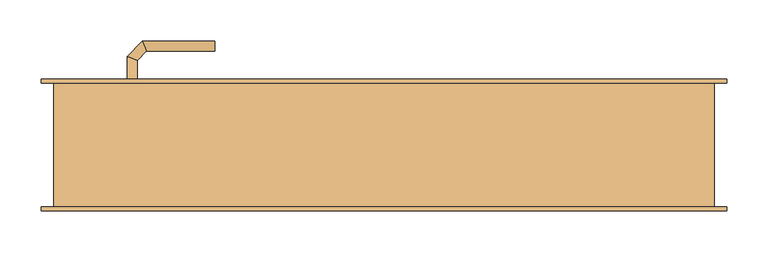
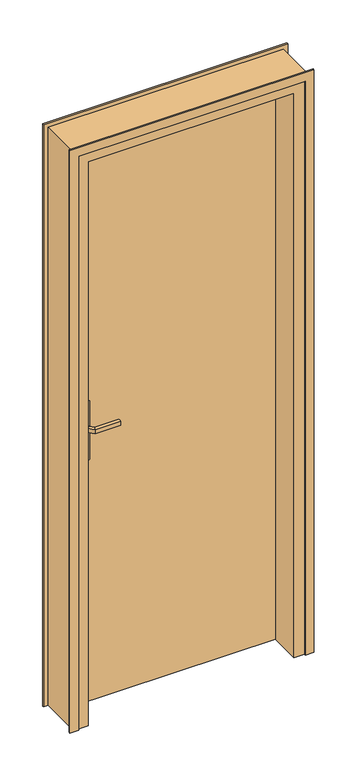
"""IFC4 building model written with IfcOpenShell, lengths in millimetres: door geometry, @_Int. Simple : @_PP (0.73m x 2.04m)."""

from ifc_helpers import new_model, si_unit, point, frame, frame_2d, origin, origin_with_axes, place, context, project, spatial, polyline, circle_curve, ellipse_curve, trimmed, segment, composite_curve, outline, extrude, faceted_brep, source, transform, mapped, element, save
from ifc_brep_helpers import plane_surface, cylinder_surface, advanced_brep


def door_bff29abf(model_context):
    return source(origin(), model_context, "Body", "SolidModel", [
        extrude(outline(composite_curve([segment(trimmed(circle_curve(frame_2d((904.6410162, -340.0)), 40.0), [point((870.0, -360.0))], [point((870.0, -320.0))], False, "CARTESIAN"), True, "CONTINUOUS"), segment(polyline([(870.0, -320.0), (1080.0, -320.0)]), True, "CONTINUOUS"), segment(trimmed(circle_curve(frame_2d((1045.3589838, -340.0)), 40.0), [point((1080.0, -320.0))], [point((1080.0, -360.0))], False, "CARTESIAN"), True, "CONTINUOUS"), segment(polyline([(1080.0, -360.0), (870.0, -360.0)]), True, "CONTINUOUS")], self_intersect=False)), frame((0.0, 75.0, 0.0), z_axis=(0.0, 1.0, 0.0), x_axis=(0.0, 0.0, 1.0)), (0.0, 0.0, 1.0), 5.0),
        extrude(outline(composite_curve([segment(trimmed(circle_curve(frame_2d((1045.3589838, -340.0)), 40.0), [point((1080.0, -320.0))], [point((1080.0, -360.0))], False, "CARTESIAN"), True, "CONTINUOUS"), segment(polyline([(1080.0, -360.0), (870.0, -360.0)]), True, "CONTINUOUS"), segment(trimmed(circle_curve(frame_2d((904.6410162, -340.0)), 40.0), [point((870.0, -360.0))], [point((870.0, -320.0))], False, "CARTESIAN"), True, "CONTINUOUS"), segment(polyline([(870.0, -320.0), (1080.0, -320.0)]), True, "CONTINUOUS")], self_intersect=False)), frame((0.0, 30.0, 0.0), z_axis=(0.0, 1.0, 0.0), x_axis=(0.0, 0.0, 1.0)), (0.0, 0.0, 1.0), 5.0),
        advanced_brep(
        [(-346.0, 80.0, 1007.0), (-346.0, 80.0, 993.0), (-334.0, 80.0, 993.0), (-334.0, 80.0, 1007.0), (-334.0, 102.680388, 1007.0), (-346.0, 107.6509507, 1007.0), (-334.0, 102.680388, 993.0), (-346.0, 107.6509507, 993.0), (-322.6522273, 114.0281607, 1007.0), (-327.62279, 126.0281607, 1007.0), (-322.6522273, 114.0281607, 993.0), (-327.62279, 126.0281607, 993.0), (-239.9813594, 126.0281607, 1007.0), (-239.9813594, 114.0281607, 1007.0), (-239.9813594, 114.0281607, 993.0), (-239.9813594, 126.0281607, 993.0)],
        [
            (0, 1),
            (1, 2, circle_curve(frame((-340.0, 80.0, 1013.0457722), z_axis=(0.0, -1.0, 0.0), x_axis=(1.0, 0.0, 0.0)), 20.9244589)),
            (2, 3),
            (3, 0, circle_curve(frame((-340.0, 80.0, 986.9542278), z_axis=(0.0, -1.0, 0.0), x_axis=(1.0, 0.0, 0.0)), 20.9244589)),
            (3, 4),
            (4, 5, ellipse_curve(frame((-340.0, 105.1656693, 986.9542278), z_axis=(-0.3826834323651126, -0.9238795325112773, 0.0), x_axis=(0.9238795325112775, -0.38268343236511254, 0.0)), 22.6484711, 20.9244589)),
            (5, 0),
            (2, 6),
            (6, 4),
            (1, 7),
            (7, 6, ellipse_curve(frame((-340.0, 105.1656693, 1013.0457722), z_axis=(-0.3826834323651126, -0.9238795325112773, 0.0), x_axis=(0.9238795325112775, -0.38268343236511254, 0.0)), 22.6484711, 20.9244589)),
            (5, 7),
            (4, 8),
            (8, 9, ellipse_curve(frame((-325.1375086, 120.0281607, 986.9542278), z_axis=(-0.9238795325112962, -0.38268343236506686, 0.0), x_axis=(0.3826834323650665, -0.9238795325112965, 0.0)), 22.6484711, 20.9244589)),
            (9, 5),
            (6, 10),
            (10, 8),
            (7, 11),
            (11, 10, ellipse_curve(frame((-325.1375086, 120.0281607, 1013.0457722), z_axis=(-0.9238795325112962, -0.38268343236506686, 0.0), x_axis=(0.3826834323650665, -0.9238795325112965, 0.0)), 22.6484711, 20.9244589)),
            (9, 11),
            (12, 13, circle_curve(frame((-239.9813594, 120.0281607, 986.9542278), z_axis=(1.0, 0.0, 0.0), x_axis=(0.0, -1.0, 0.0)), 20.9244589)),
            (13, 14),
            (14, 15, circle_curve(frame((-239.9813594, 120.0281607, 1013.0457722), z_axis=(1.0, 0.0, 0.0), x_axis=(0.0, -1.0, 0.0)), 20.9244589)),
            (15, 12),
            (8, 13),
            (12, 9),
            (10, 14),
            (11, 15),
        ],
        [
            plane_surface(frame((-349.2195445, 80.0, 1000.0), z_axis=(0.0, -1.0, 0.0), x_axis=(0.0, 0.0, -1.0))),
            cylinder_surface(frame((-340.0, 80.0, 986.9542278), z_axis=(0.0, -1.0, 0.0), x_axis=(1.0, 0.0, 0.0)), 20.9244589),
            plane_surface(frame((-334.0, 80.0, 1007.0), z_axis=(1.0, 0.0, 0.0), x_axis=(0.0, 1.0, 0.0))),
            cylinder_surface(frame((-340.0, 80.0, 1013.0457722), z_axis=(0.0, -1.0, 0.0), x_axis=(1.0, 0.0, 0.0)), 20.9244589),
            plane_surface(frame((-346.0, 80.0, 993.0), z_axis=(-1.0, 0.0, 0.0), x_axis=(0.0, 1.0, 0.0))),
            cylinder_surface(frame((-340.0, 105.1656693, 986.9542278), z_axis=(-0.7071067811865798, -0.7071067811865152, 0.0), x_axis=(0.7071067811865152, -0.7071067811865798, 0.0)), 20.9244589),
            plane_surface(frame((-334.0, 102.680388, 1007.0), z_axis=(0.7071067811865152, -0.7071067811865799, 0.0), x_axis=(0.7071067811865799, 0.7071067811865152, 0.0))),
            cylinder_surface(frame((-340.0, 105.1656693, 1013.0457722), z_axis=(-0.7071067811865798, -0.7071067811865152, 0.0), x_axis=(0.7071067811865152, -0.7071067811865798, 0.0)), 20.9244589),
            plane_surface(frame((-346.0, 107.6509507, 993.0), z_axis=(-0.7071067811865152, 0.7071067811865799, 0.0), x_axis=(0.7071067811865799, 0.7071067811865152, 0.0))),
            plane_surface(frame((-239.9813594, 120.0281607, 990.7804555), z_axis=(1.0, 0.0, 0.0), x_axis=(0.0, -1.0, 0.0))),
            cylinder_surface(frame((-325.1375086, 120.0281607, 986.9542278), z_axis=(-1.0, 0.0, 0.0), x_axis=(0.0, -1.0, 0.0)), 20.9244589),
            plane_surface(frame((-322.6522273, 114.0281607, 1007.0), z_axis=(0.0, -1.0, 0.0), x_axis=(1.0, 0.0, 0.0))),
            cylinder_surface(frame((-325.1375086, 120.0281607, 1013.0457722), z_axis=(-1.0, 0.0, 0.0), x_axis=(0.0, -1.0, 0.0)), 20.9244589),
            plane_surface(frame((-327.62279, 126.0281607, 993.0), z_axis=(0.0, 1.0, 0.0), x_axis=(1.0, 0.0, 0.0))),
        ],
        [
            (0, [[1, 2, 3, 4]]),
            (1, [[5, 6, 7, -4]]),
            (2, [[8, 9, -5, -3]]),
            (3, [[10, 11, -8, -2]]),
            (4, [[-7, 12, -10, -1]]),
            (5, [[13, 14, 15, -6]]),
            (6, [[16, 17, -13, -9]]),
            (7, [[18, 19, -16, -11]]),
            (8, [[-15, 20, -18, -12]]),
            (9, [[21, 22, 23, 24]]),
            (10, [[25, -21, 26, -14]]),
            (11, [[27, -22, -25, -17]]),
            (12, [[28, -23, -27, -19]]),
            (13, [[-26, -24, -28, -20]]),
        ],
    ),
        advanced_brep(
        [(-334.0, 30.0, 993.0), (-346.0, 30.0, 993.0), (-346.0, 30.0, 1007.0), (-334.0, 30.0, 1007.0), (-334.0, 7.5147955, 1007.0), (-334.0, 7.5147955, 993.0), (-346.0, 2.5442327, 1007.0), (-346.0, 2.5442327, 993.0), (-322.5147186, -3.9704859, 1007.0), (-322.5147186, -3.9704859, 993.0), (-327.4852814, -15.9704859, 1007.0), (-327.4852814, -15.9704859, 993.0), (-239.9542163, -3.9704859, 993.0), (-239.9542163, -3.9704859, 1007.0), (-239.9542163, -15.9704859, 1007.0), (-239.9542163, -15.9704859, 993.0)],
        [
            (0, 1, circle_curve(frame((-340.0, 30.0, 1013.0457722), z_axis=(0.0, 1.0, 0.0), x_axis=(-1.0, 0.0, 0.0)), 20.9244589)),
            (1, 2),
            (2, 3, circle_curve(frame((-340.0, 30.0, 986.9542278), z_axis=(0.0, 1.0, 0.0), x_axis=(-1.0, 0.0, 0.0)), 20.9244589)),
            (3, 0),
            (3, 4),
            (4, 5),
            (5, 0),
            (2, 6),
            (6, 4, ellipse_curve(frame((-340.0, 5.0295141, 986.9542278), z_axis=(-0.3826834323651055, 0.9238795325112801, 0.0), x_axis=(0.9238795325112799, 0.3826834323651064, 0.0)), 22.6484711, 20.9244589)),
            (1, 7),
            (7, 6),
            (5, 7, ellipse_curve(frame((-340.0, 5.0295141, 1013.0457722), z_axis=(-0.3826834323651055, 0.9238795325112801, 0.0), x_axis=(0.9238795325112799, 0.3826834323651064, 0.0)), 22.6484711, 20.9244589)),
            (4, 8),
            (8, 9),
            (9, 5),
            (6, 10),
            (10, 8, ellipse_curve(frame((-325.0, -9.9704859, 986.9542278), z_axis=(-0.9238795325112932, 0.382683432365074, 0.0), x_axis=(0.3826834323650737, 0.9238795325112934, 0.0)), 22.6484711, 20.9244589)),
            (7, 11),
            (11, 10),
            (9, 11, ellipse_curve(frame((-325.0, -9.9704859, 1013.0457722), z_axis=(-0.9238795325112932, 0.382683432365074, 0.0), x_axis=(0.3826834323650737, 0.9238795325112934, 0.0)), 22.6484711, 20.9244589)),
            (12, 13),
            (13, 14, circle_curve(frame((-239.9542163, -9.9704859, 986.9542278), z_axis=(1.0, 0.0, 0.0), x_axis=(0.0, -1.0, 0.0)), 20.9244589)),
            (14, 15),
            (15, 12, circle_curve(frame((-239.9542163, -9.9704859, 1013.0457722), z_axis=(1.0, 0.0, 0.0), x_axis=(0.0, -1.0, 0.0)), 20.9244589)),
            (8, 13),
            (12, 9),
            (10, 14),
            (11, 15),
        ],
        [
            plane_surface(frame((-349.2195445, 30.0, 1000.0), z_axis=(0.0, 1.0, 0.0), x_axis=(0.0, 0.0, 1.0))),
            plane_surface(frame((-334.0, 30.0, 993.0), z_axis=(1.0, 0.0, 0.0), x_axis=(0.0, -1.0, 0.0))),
            cylinder_surface(frame((-340.0, 30.0, 986.9542278), z_axis=(0.0, 1.0, 0.0), x_axis=(-1.0, 0.0, 0.0)), 20.9244589),
            plane_surface(frame((-346.0, 30.0, 1007.0), z_axis=(-1.0, 0.0, 0.0), x_axis=(0.0, -1.0, 0.0))),
            cylinder_surface(frame((-340.0, 30.0, 1013.0457722), z_axis=(0.0, 1.0, 0.0), x_axis=(-1.0, 0.0, 0.0)), 20.9244589),
            plane_surface(frame((-334.0, 7.5147955, 993.0), z_axis=(0.7071067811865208, 0.7071067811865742, 0.0), x_axis=(0.7071067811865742, -0.7071067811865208, 0.0))),
            cylinder_surface(frame((-340.0, 5.0295141, 986.9542278), z_axis=(-0.7071067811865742, 0.7071067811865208, 0.0), x_axis=(-0.7071067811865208, -0.7071067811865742, 0.0)), 20.9244589),
            plane_surface(frame((-346.0, 2.5442327, 1007.0), z_axis=(-0.7071067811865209, -0.7071067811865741, 0.0), x_axis=(0.7071067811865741, -0.7071067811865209, 0.0))),
            cylinder_surface(frame((-340.0, 5.0295141, 1013.0457722), z_axis=(-0.7071067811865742, 0.7071067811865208, 0.0), x_axis=(-0.7071067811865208, -0.7071067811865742, 0.0)), 20.9244589),
            plane_surface(frame((-239.9542163, -9.9704859, 990.7804555), z_axis=(1.0, 0.0, 0.0), x_axis=(0.0, -1.0, 0.0))),
            plane_surface(frame((-322.5147186, -3.9704859, 993.0), z_axis=(0.0, 1.0, 0.0), x_axis=(1.0, 0.0, 0.0))),
            cylinder_surface(frame((-325.0, -9.9704859, 986.9542278), z_axis=(-1.0, 0.0, 0.0), x_axis=(0.0, -1.0, 0.0)), 20.9244589),
            plane_surface(frame((-327.4852814, -15.9704859, 1007.0), z_axis=(0.0, -1.0, 0.0), x_axis=(1.0, 0.0, 0.0))),
            cylinder_surface(frame((-325.0, -9.9704859, 1013.0457722), z_axis=(-1.0, 0.0, 0.0), x_axis=(0.0, -1.0, 0.0)), 20.9244589),
        ],
        [
            (0, [[1, 2, 3, 4]]),
            (1, [[5, 6, 7, -4]]),
            (2, [[8, 9, -5, -3]]),
            (3, [[10, 11, -8, -2]]),
            (4, [[-7, 12, -10, -1]]),
            (5, [[13, 14, 15, -6]]),
            (6, [[16, 17, -13, -9]]),
            (7, [[18, 19, -16, -11]]),
            (8, [[-15, 20, -18, -12]]),
            (9, [[21, 22, 23, 24]]),
            (10, [[25, -21, 26, -14]]),
            (11, [[27, -22, -25, -17]]),
            (12, [[28, -23, -27, -19]]),
            (13, [[-26, -24, -28, -20]]),
        ],
    ),
        extrude(outline(polyline([(-400.0, 35.0), (-400.0, 75.0), (330.0, 75.0), (330.0, 35.0), (-400.0, 35.0)])), origin_with_axes(), (0.0, 0.0, 1.0), 2040.0),
        faceted_brep([(-435.0, 75.0, 0.0), (-400.0, 75.0, 0.0), (-400.0, 35.0, 0.0), (-385.0, 35.0, 0.0), (-385.0, -75.0, 0.0), (-435.0, -75.0, 0.0), (-435.0, -75.0, 2075.0), (-435.0, 75.0, 2075.0), (-385.0, -75.0, 2025.0), (315.0, -75.0, 2025.0), (315.0, -75.0, 0.0), (365.0, -75.0, 0.0), (365.0, -75.0, 2075.0), (-385.0, 35.0, 2025.0), (-400.0, 35.0, 2040.0), (330.0, 35.0, 2040.0), (330.0, 35.0, 0.0), (315.0, 35.0, 0.0), (315.0, 35.0, 2025.0), (-400.0, 75.0, 2040.0), (365.0, 75.0, 2075.0), (365.0, 75.0, 0.0), (330.0, 75.0, 0.0), (330.0, 75.0, 2040.0)], [[[0, 1, 2, 3, 4, 5]], [[5, 6, 7, 0]], [[4, 8, 9, 10, 11, 12, 6, 5]], [[3, 13, 8, 4]], [[2, 14, 15, 16, 17, 18, 13, 3]], [[1, 19, 14, 2]], [[0, 7, 20, 21, 22, 23, 19, 1]], [[12, 11, 21, 20]], [[21, 11, 10, 17, 16, 22]], [[18, 17, 10, 9]], [[23, 22, 16, 15]], [[6, 12, 20, 7]], [[13, 18, 9, 8]], [[19, 23, 15, 14]]]),
        extrude(outline(polyline([(0.0, -420.0), (2060.0, -420.0), (2060.0, 350.0), (0.0, 350.0), (0.0, 380.0), (2090.0, 380.0), (2090.0, -450.0), (0.0, -450.0), (0.0, -420.0)])), frame((0.0, 75.0, 0.0), z_axis=(0.0, 1.0, 0.0), x_axis=(0.0, 0.0, 1.0)), (0.0, 0.0, 1.0), 5.0),
        extrude(outline(polyline([(0.0, -420.0), (2060.0, -420.0), (2060.0, 350.0), (0.0, 350.0), (0.0, 380.0), (2090.0, 380.0), (2090.0, -450.0), (0.0, -450.0), (0.0, -420.0)])), frame((0.0, -80.0, 0.0), z_axis=(0.0, 1.0, 0.0), x_axis=(0.0, 0.0, 1.0)), (0.0, 0.0, 1.0), 5.0),
    ])


if __name__ == "__main__":
    model = new_model("IFC4")
    model_context = context("Model", 3, world=origin())
    ifc_project = project(units=[si_unit("LENGTHUNIT", "METRE", prefix="MILLI")], contexts=[model_context])
    site = spatial("IfcSite", under=ifc_project)
    building = spatial("IfcBuilding", under=site)
    placement = place(None, origin())
    door_shape = door_bff29abf(model_context)
    element("IfcDoor", 1, ObjectType="@_Int. Simple : @_PP (0.73m x 2.04m)", at=placement, inside=building, context=model_context, shape_type="MappedRepresentation", body=[
        mapped(door_shape, transform((0.0, 0.0, 0.0), x_axis=(1.0, 0.0, 0.0), y_axis=(0.0, 1.0, 0.0), z_axis=(0.0, 0.0, 1.0))),
    ])
    save(model, "model.ifc")
